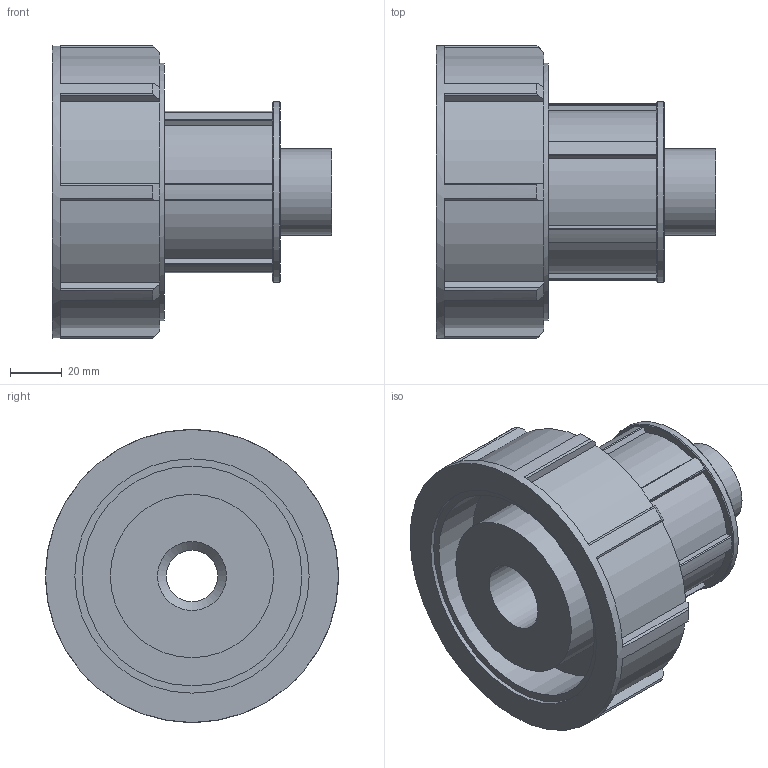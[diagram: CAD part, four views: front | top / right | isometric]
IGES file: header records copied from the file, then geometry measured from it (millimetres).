
Global section: file name: 072500063010_182500063010_0725060630100A.ipt; native system: Autodesk Inventor 2015; preprocessor: unknown; author: KIM; date: 20170608.042158; units: millimetre
Bounding box: 108 x 113 x 113 mm (x, y, z)
Volume: 421341.9 mm3; surface area: 75731.7 mm2
Topology: 1 solids, 1 shells, 115 faces, 322 edges, 217 vertices
Faces by surface type: plane 74, cylinder 25, cone 10, revolution 6
Full cylindrical faces by diameter (mm): 33.249 x1, 63 x1, 69.823 x1, 99.44 x1, 113 x1
